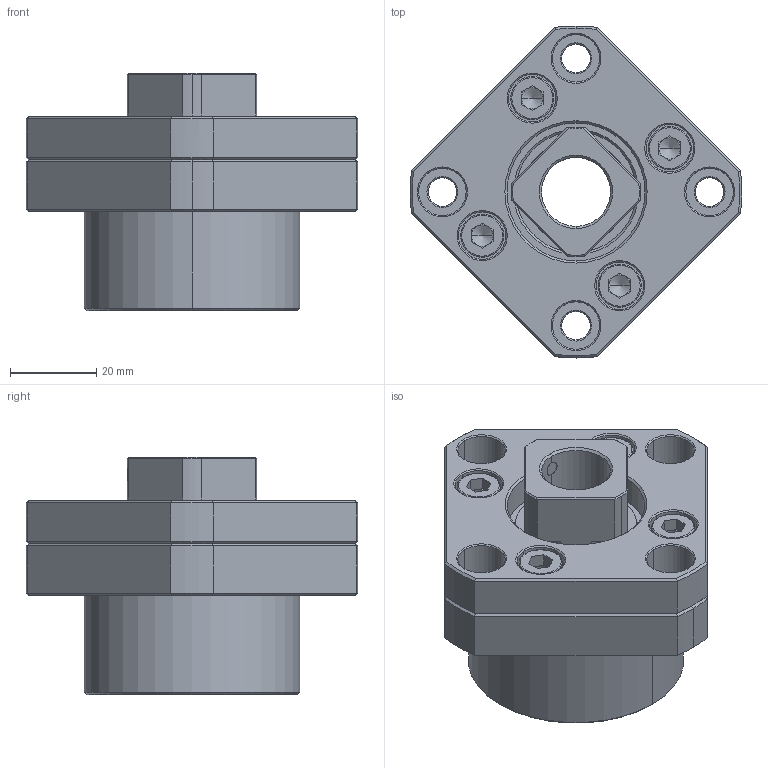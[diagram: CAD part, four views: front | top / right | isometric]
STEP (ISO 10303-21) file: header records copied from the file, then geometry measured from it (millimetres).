
FILE_DESCRIPTION (( 'STEP AP203' ), '1' );
FILE_NAME ('FSGK-17_203.STEP', '2013-02-28T00:27:40', ( '' ), ( '' ), 'SwSTEP 2.0', 'SolidWorks 2012', '' );
FILE_SCHEMA (( 'CONFIG_CONTROL_DESIGN' ));
Length unit declared in the file: millimetre
Products named in the file (1): FSGK-17_203
Bounding box: 76.93 x 77 x 55 mm (x, y, z)
Volume: 107597.4 mm3; surface area: 29189.5 mm2
Topology: 1 solids, 12 shells, 456 faces, 1045 edges, 618 vertices
Faces by surface type: plane 145, cone 142, cylinder 129, torus 40
Entity records: 12959 total; most frequent: DIRECTION 2412, CARTESIAN_POINT 2375, ORIENTED_EDGE 2054, EDGE_CURVE 1027, AXIS2_PLACEMENT_3D 991, VERTEX_POINT 618, CIRCLE 534, EDGE_LOOP 509
